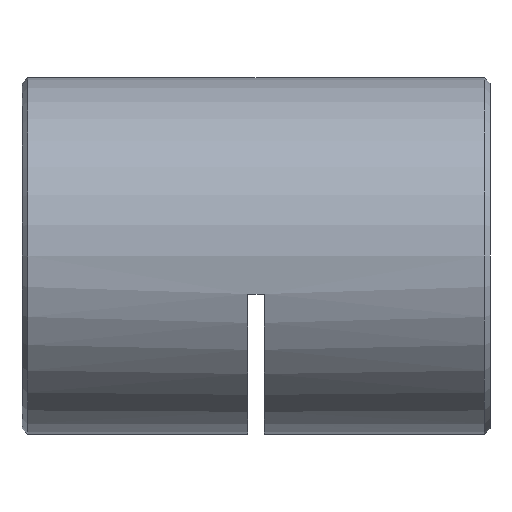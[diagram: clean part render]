
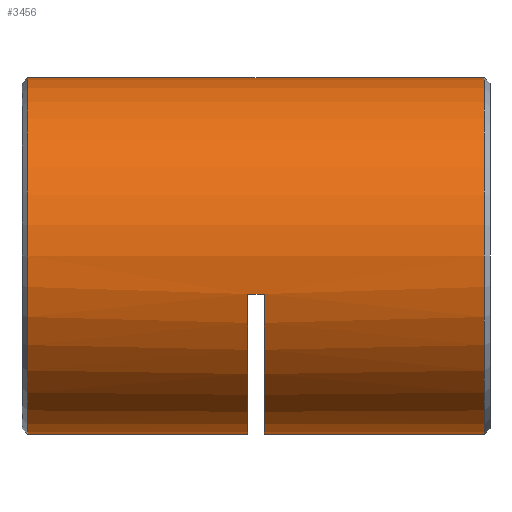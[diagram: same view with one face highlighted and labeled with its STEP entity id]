
A CAD part, left-side view. The second image highlights one B-rep face of the part: STEP entity #3456.
In plain terms, the highlighted cylindrical face has radius 16 mm (diameter 32 mm), a partial arc.
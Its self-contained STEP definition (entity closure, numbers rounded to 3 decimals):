
#7 = CARTESIAN_POINT ( 'NONE',  ( 0., 20.5, 0. ) ) ;
#52 = DIRECTION ( 'NONE',  ( 0., -1., 0. ) ) ;
#68 = LINE ( 'NONE', #109, #2539 ) ;
#109 = CARTESIAN_POINT ( 'NONE',  ( 0., 42.5, -16. ) ) ;
#126 = AXIS2_PLACEMENT_3D ( 'NONE', #7, #52, #2067 ) ;
#396 = DIRECTION ( 'NONE',  ( 0., 0., -1. ) ) ;
#610 = ORIENTED_EDGE ( 'NONE', *, *, #1215, .T. ) ;
#780 = VECTOR ( 'NONE', #3025, 1000. ) ;
#896 = DIRECTION ( 'NONE',  ( 0., 0., -1. ) ) ;
#980 = CARTESIAN_POINT ( 'NONE',  ( 0., 42.5, 16. ) ) ;
#1054 = CARTESIAN_POINT ( 'NONE',  ( 0., 20.5, -16. ) ) ;
#1215 = EDGE_CURVE ( 'NONE', #1862, #3079, #3905, .T. ) ;
#1248 = EDGE_CURVE ( 'NONE', #3193, #3354, #2968, .T. ) ;
#1296 = VECTOR ( 'NONE', #4390, 1000. ) ;
#1344 = DIRECTION ( 'NONE',  ( 0., 1., 0. ) ) ;
#1355 = CIRCLE ( 'NONE', #126, 16. ) ;
#1417 = CIRCLE ( 'NONE', #1495, 16. ) ;
#1462 = ORIENTED_EDGE ( 'NONE', *, *, #6310, .T. ) ;
#1495 = AXIS2_PLACEMENT_3D ( 'NONE', #1918, #5350, #3384 ) ;
#1654 = DIRECTION ( 'NONE',  ( 0., -1., 0. ) ) ;
#1805 = VERTEX_POINT ( 'NONE', #4518 ) ;
#1841 = ORIENTED_EDGE ( 'NONE', *, *, #1248, .F. ) ;
#1862 = VERTEX_POINT ( 'NONE', #5069 ) ;
#1918 = CARTESIAN_POINT ( 'NONE',  ( 0., 41.75, 0. ) ) ;
#2067 = DIRECTION ( 'NONE',  ( 0., 0., -1. ) ) ;
#2182 = ORIENTED_EDGE ( 'NONE', *, *, #3191, .T. ) ;
#2330 = CARTESIAN_POINT ( 'NONE',  ( -15.632, 21.25, -3.413 ) ) ;
#2353 = CARTESIAN_POINT ( 'NONE',  ( 0., 41.75, 16. ) ) ;
#2539 = VECTOR ( 'NONE', #1654, 1000. ) ;
#2848 = CARTESIAN_POINT ( 'NONE',  ( 0., 0.75, 0. ) ) ;
#2894 = VECTOR ( 'NONE', #3479, 1000. ) ;
#2929 = CARTESIAN_POINT ( 'NONE',  ( 0., 22., 0. ) ) ;
#2968 = LINE ( 'NONE', #980, #2894 ) ;
#3025 = DIRECTION ( 'NONE',  ( 0., -1., 0. ) ) ;
#3079 = VERTEX_POINT ( 'NONE', #5043 ) ;
#3115 = VERTEX_POINT ( 'NONE', #4227 ) ;
#3137 = AXIS2_PLACEMENT_3D ( 'NONE', #6376, #4333, #396 ) ;
#3191 = EDGE_CURVE ( 'NONE', #1805, #3354, #3715, .T. ) ;
#3193 = VERTEX_POINT ( 'NONE', #2353 ) ;
#3200 = VERTEX_POINT ( 'NONE', #5767 ) ;
#3354 = VERTEX_POINT ( 'NONE', #6315 ) ;
#3384 = DIRECTION ( 'NONE',  ( 0., 0., -1. ) ) ;
#3456 = ADVANCED_FACE ( 'NONE', ( #5798 ), #5654, .T. ) ;
#3479 = DIRECTION ( 'NONE',  ( 0., -1., 0. ) ) ;
#3510 = EDGE_CURVE ( 'NONE', #3193, #3200, #1417, .T. ) ;
#3715 = CIRCLE ( 'NONE', #5439, 16. ) ;
#3848 = DIRECTION ( 'NONE',  ( 0., -1., 0. ) ) ;
#3870 = ORIENTED_EDGE ( 'NONE', *, *, #4858, .T. ) ;
#3905 = LINE ( 'NONE', #2330, #1296 ) ;
#4007 = EDGE_CURVE ( 'NONE', #1862, #3115, #6395, .T. ) ;
#4082 = LINE ( 'NONE', #4445, #780 ) ;
#4212 = AXIS2_PLACEMENT_3D ( 'NONE', #2929, #3848, #896 ) ;
#4227 = CARTESIAN_POINT ( 'NONE',  ( 0., 22., -16. ) ) ;
#4261 = ORIENTED_EDGE ( 'NONE', *, *, #4007, .F. ) ;
#4333 = DIRECTION ( 'NONE',  ( 0., -1., 0. ) ) ;
#4390 = DIRECTION ( 'NONE',  ( 0., -1., 0. ) ) ;
#4445 = CARTESIAN_POINT ( 'NONE',  ( 0., 42.5, -16. ) ) ;
#4518 = CARTESIAN_POINT ( 'NONE',  ( 0., 0.75, -16. ) ) ;
#4858 = EDGE_CURVE ( 'NONE', #5870, #1805, #4082, .T. ) ;
#4940 = EDGE_CURVE ( 'NONE', #3200, #3115, #68, .T. ) ;
#5043 = CARTESIAN_POINT ( 'NONE',  ( -15.632, 20.5, -3.413 ) ) ;
#5069 = CARTESIAN_POINT ( 'NONE',  ( -15.632, 22., -3.413 ) ) ;
#5269 = DIRECTION ( 'NONE',  ( 0., 0., 1. ) ) ;
#5350 = DIRECTION ( 'NONE',  ( 0., -1., 0. ) ) ;
#5439 = AXIS2_PLACEMENT_3D ( 'NONE', #2848, #1344, #5269 ) ;
#5473 = ORIENTED_EDGE ( 'NONE', *, *, #3510, .T. ) ;
#5654 = CYLINDRICAL_SURFACE ( 'NONE', #3137, 16. ) ;
#5767 = CARTESIAN_POINT ( 'NONE',  ( 0., 41.75, -16. ) ) ;
#5798 = FACE_OUTER_BOUND ( 'NONE', #5973, .T. ) ;
#5870 = VERTEX_POINT ( 'NONE', #1054 ) ;
#5973 = EDGE_LOOP ( 'NONE', ( #1841, #5473, #6384, #4261, #610, #1462, #3870, #2182 ) ) ;
#6310 = EDGE_CURVE ( 'NONE', #3079, #5870, #1355, .T. ) ;
#6315 = CARTESIAN_POINT ( 'NONE',  ( 0., 0.75, 16. ) ) ;
#6376 = CARTESIAN_POINT ( 'NONE',  ( 0., 42.5, 0. ) ) ;
#6384 = ORIENTED_EDGE ( 'NONE', *, *, #4940, .T. ) ;
#6395 = CIRCLE ( 'NONE', #4212, 16. ) ;
